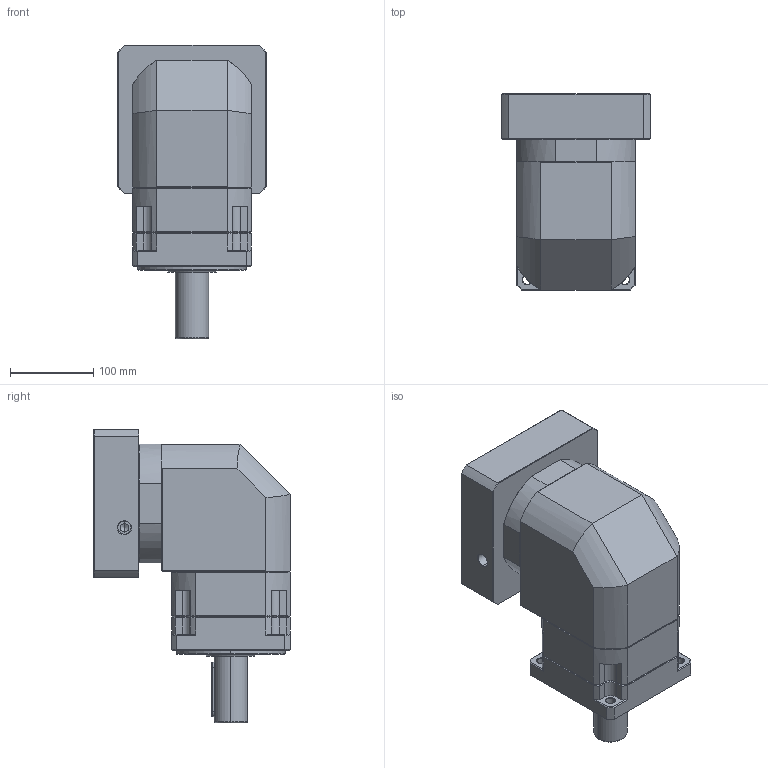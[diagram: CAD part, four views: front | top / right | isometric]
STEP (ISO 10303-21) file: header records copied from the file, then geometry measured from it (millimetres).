
FILE_DESCRIPTION (( 'STEP AP214' ), '1' );
FILE_NAME ('ZBR142A-D40-L1-P2-32-150-185-M10.step', '2023-09-02T07:11:23', ( '' ), ( '' ), 'SwSTEP 2.0', 'SolidWorks 2016', '' );
FILE_SCHEMA (( 'AUTOMOTIVE_DESIGN' ));
Length unit declared in the file: millimetre
Products named in the file (1): ZBR142A-D40-L1-P2-32-150-185-M10
Bounding box: 178 x 235 x 351.7 mm (x, y, z)
Volume: 6035403 mm3; surface area: 429339.8 mm2
Topology: 6 solids, 6 shells, 2312 faces, 6073 edges, 3868 vertices
Faces by surface type: plane 1120, cylinder 424, bspline 414, cone 332, torus 22
Entity records: 130443 total; most frequent: CARTESIAN_POINT 51486, ORIENTED_EDGE 12086, DIRECTION 9513, EDGE_CURVE 6043, LINE 3903, VECTOR 3903, VERTEX_POINT 3868, AXIS2_PLACEMENT_3D 2805
